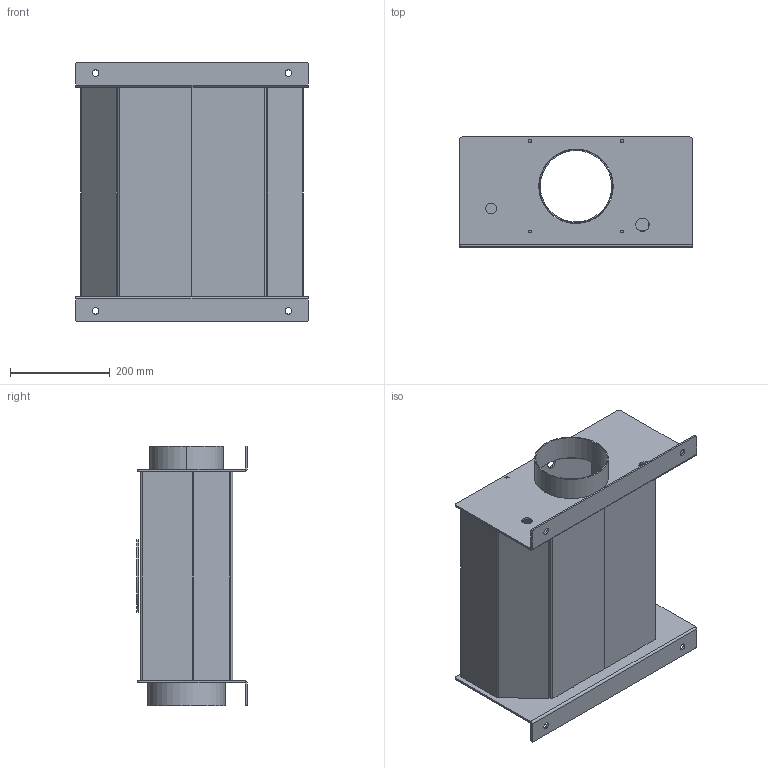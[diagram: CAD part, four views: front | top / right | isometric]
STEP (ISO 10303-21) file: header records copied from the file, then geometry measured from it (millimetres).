
FILE_DESCRIPTION (( 'STEP AP203' ), '1' );
FILE_NAME ('RACS 150.STEP', '2013-03-13T12:04:52', ( 'Utente' ), ( '' ), 'SwSTEP 2.0', 'SolidWorks 2007', '' );
FILE_SCHEMA (( 'CONFIG_CONTROL_DESIGN' ));
Length unit declared in the file: millimetre
Products named in the file (8): RACS 150; Coperchio ispezione RACS 200; Piastra tubiera RACS 150; Piastra ingresso fumi RACS 150; Testata idraulica RACS 150; Uscita fumi RACS 150; Piastra uscita fumi RACS 150; Ingresso fumi RACS 150
Assembly tree (9 placements, depth 2):
  RACS 150
    Ingresso fumi RACS 150
    Piastra tubiera RACS 150  x2
    Testata idraulica RACS 150  x2
    Coperchio ispezione RACS 200
    Uscita fumi RACS 150
    Piastra uscita fumi RACS 150
    Piastra ingresso fumi RACS 150
Bounding box: 466 x 221.1 x 520 mm (x, y, z)
Volume: 3357393.4 mm3; surface area: 1790145.1 mm2
Topology: 9 solids, 9 shells, 327 faces, 847 edges, 538 vertices
Faces by surface type: plane 172, cylinder 155
Entity records: 7841 total; most frequent: DIRECTION 1243, CARTESIAN_POINT 1172, ORIENTED_EDGE 1146, EDGE_CURVE 573, AXIS2_PLACEMENT_3D 437, LINE 369, VECTOR 369, VERTEX_POINT 366
